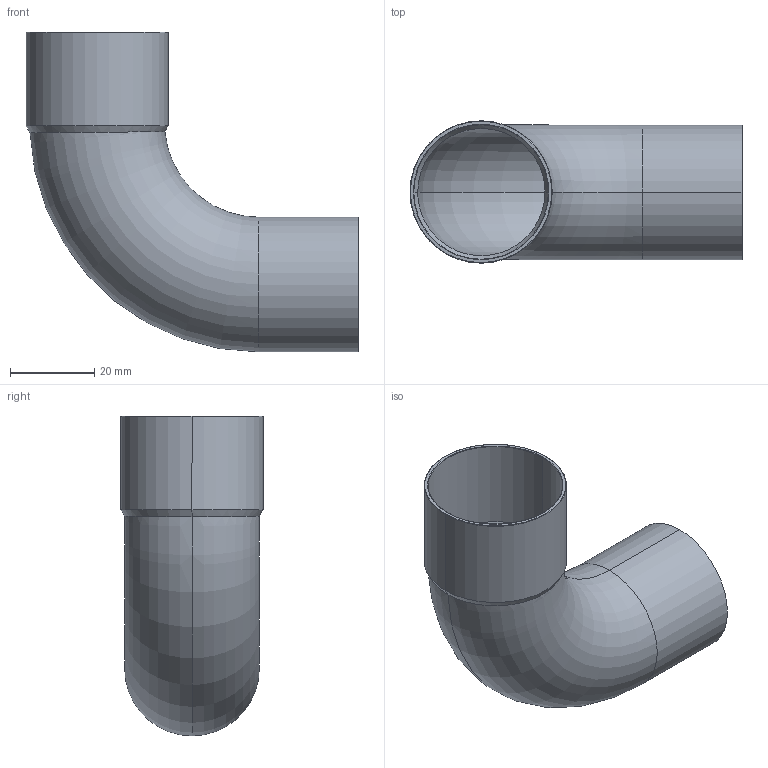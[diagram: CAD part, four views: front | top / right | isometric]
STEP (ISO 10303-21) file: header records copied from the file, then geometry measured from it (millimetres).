
FILE_DESCRIPTION((''),'2;1');
FILE_NAME('P:\Bouwmaten\z-maattekeningen 3D\5000\5001a\15001a32.stp','2005-10-04T14:41:22',('Kris'),(''),'Autodesk Inventor 8','Autodesk Inventor 8','');
FILE_SCHEMA(('AUTOMOTIVE_DESIGN { 1 0 10303 214 1 1 1 1 }'));
Length unit declared in the file: millimetre
Products named in the file (1): 15001a32
Bounding box: 78.9 x 33.8 x 76 mm (x, y, z)
Volume: 9415.6 mm3; surface area: 21094.7 mm2
Topology: 1 solids, 1 shells, 22 faces, 46 edges, 26 vertices
Faces by surface type: cone 8, cylinder 8, torus 4, plane 2
Entity records: 681 total; most frequent: CARTESIAN_POINT 173, DIRECTION 114, ORIENTED_EDGE 92, AXIS2_PLACEMENT_3D 49, EDGE_CURVE 46, VERTEX_POINT 26, CIRCLE 26, EDGE_LOOP 24
